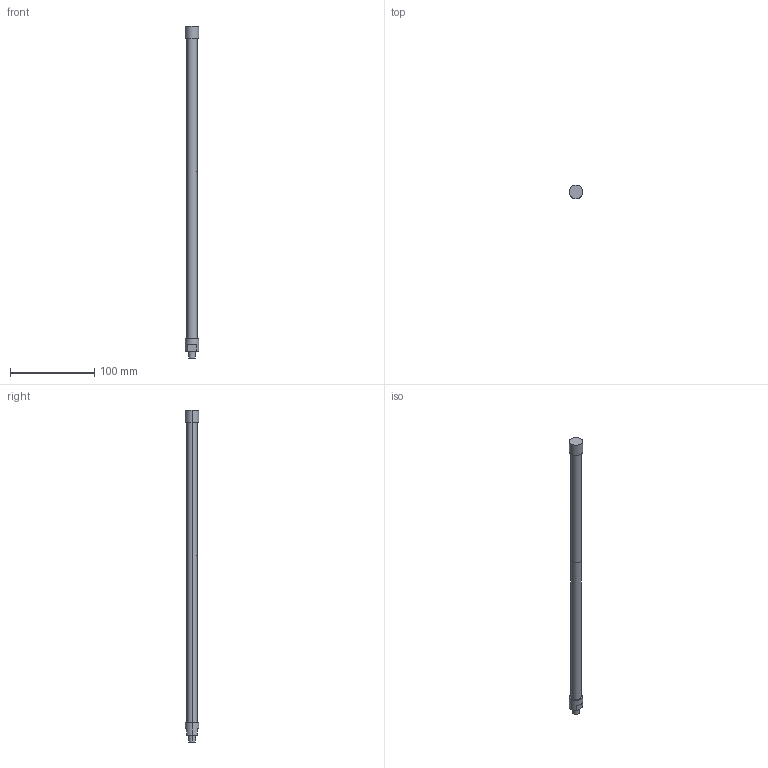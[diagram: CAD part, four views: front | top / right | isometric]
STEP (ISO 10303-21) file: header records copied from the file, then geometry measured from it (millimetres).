
FILE_DESCRIPTION(('STEP AP214'),'1');
FILE_NAME('C:/Users/Autocad/Desktop/L395-C210 MN.stp','2014-02-10T09:26:34',(' '),(' '),'Spatial InterOp 3D',' ',' ');
FILE_SCHEMA(('automotive_design'));
Length unit declared in the file: metre
Products named in the file (2): 1; 2
Bounding box: 16 x 16 x 395 mm (x, y, z)
Volume: 27533.6 mm3; surface area: 23102.6 mm2
Topology: 1 solids, 5 shells, 27 faces, 62 edges, 46 vertices
Faces by surface type: cylinder 14, plane 13
Entity records: 1056 total; most frequent: DIRECTION 158, CARTESIAN_POINT 137, ORIENTED_EDGE 112, AXIS2_PLACEMENT_3D 67, EDGE_CURVE 62, VERTEX_POINT 46, CIRCLE 38, EDGE_LOOP 32
